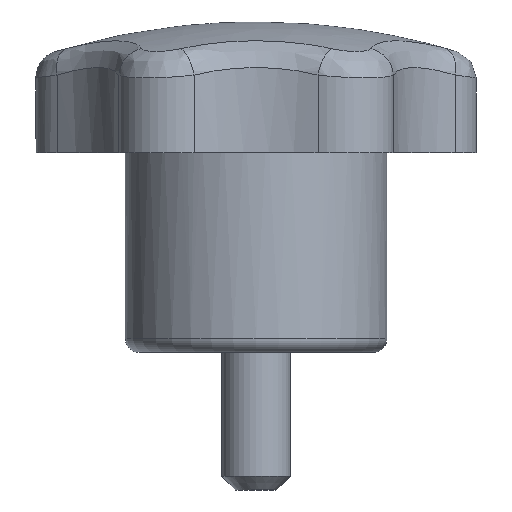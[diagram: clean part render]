
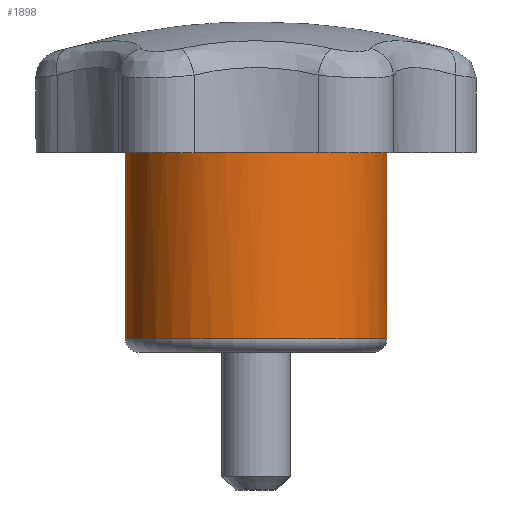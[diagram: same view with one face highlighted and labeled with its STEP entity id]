
A CAD part, front view. The second image highlights one B-rep face of the part: STEP entity #1898.
In plain terms, the highlighted cylindrical face has radius 9.5 mm (diameter 19 mm), a full revolution.
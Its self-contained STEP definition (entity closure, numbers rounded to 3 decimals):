
#42=CARTESIAN_POINT('',(-9.5,0.,1.));
#43=VERTEX_POINT('',#42);
#53=CARTESIAN_POINT('',(0.,0.,1.));
#54=DIRECTION('',(-1.,0.,0.));
#55=DIRECTION('',(0.,0.,1.));
#56=AXIS2_PLACEMENT_3D('',#53,#55,#54);
#57=CIRCLE('',#56,9.5);
#58=EDGE_CURVE('',#43,#43,#57,.T.);
#1670=CARTESIAN_POINT('',(0.,0.,17.5));
#1671=DIRECTION('',(-1.,0.,0.));
#1672=DIRECTION('',(0.,0.,-1.));
#1673=AXIS2_PLACEMENT_3D('',#1670,#1672,#1671);
#1674=CYLINDRICAL_SURFACE('',#1673,9.5);
#1675=ORIENTED_EDGE('',*,*,#58,.T.);
#1676=CARTESIAN_POINT('',(-9.5,0.,16.5));
#1677=VERTEX_POINT('',#1676);
#1678=CARTESIAN_POINT('',(-9.5,0.,1.));
#1679=DIRECTION('',(0.,0.,1.));
#1680=VECTOR('',#1679,15.5);
#1681=LINE('',#1678,#1680);
#1682=EDGE_CURVE('',#43,#1677,#1681,.T.);
#1683=ORIENTED_EDGE('E55',*,*,#1682,.T.);
#1684=CARTESIAN_POINT('',(-9.457,0.9,16.5));
#1685=VERTEX_POINT('',#1684);
#1686=CARTESIAN_POINT('',(0.,0.,16.5));
#1687=DIRECTION('',(-0.996,0.095,0.));
#1688=DIRECTION('',(0.,0.,1.));
#1689=AXIS2_PLACEMENT_3D('',#1686,#1688,#1687);
#1690=CIRCLE('',#1689,9.5);
#1691=EDGE_CURVE('',#1685,#1677,#1690,.T.);
#1692=ORIENTED_EDGE('E233',*,*,#1691,.F.);
#1693=CARTESIAN_POINT('',(-9.457,0.9,17.5));
#1694=VERTEX_POINT('',#1693);
#1695=CARTESIAN_POINT('',(-9.457,0.9,17.5));
#1696=DIRECTION('',(0.,0.,-1.));
#1697=VECTOR('',#1696,1.);
#1698=LINE('',#1695,#1697);
#1699=EDGE_CURVE('',#1694,#1685,#1698,.T.);
#1700=ORIENTED_EDGE('E234',*,*,#1699,.F.);
#1701=CARTESIAN_POINT('',(-5.508,7.74,17.5));
#1702=VERTEX_POINT('',#1701);
#1703=CARTESIAN_POINT('',(0.,0.,17.5));
#1704=DIRECTION('',(-0.58,0.815,0.));
#1705=DIRECTION('',(0.,0.,1.));
#1706=AXIS2_PLACEMENT_3D('',#1703,#1705,#1704);
#1707=CIRCLE('',#1706,9.5);
#1708=EDGE_CURVE('',#1702,#1694,#1707,.T.);
#1709=ORIENTED_EDGE('E132',*,*,#1708,.F.);
#1710=CARTESIAN_POINT('',(-5.508,7.74,16.5));
#1711=VERTEX_POINT('',#1710);
#1712=CARTESIAN_POINT('',(-5.508,7.74,16.5));
#1713=DIRECTION('',(0.,0.,1.));
#1714=VECTOR('',#1713,1.);
#1715=LINE('',#1712,#1714);
#1716=EDGE_CURVE('',#1711,#1702,#1715,.T.);
#1717=ORIENTED_EDGE('E216',*,*,#1716,.F.);
#1718=CARTESIAN_POINT('',(-3.949,8.64,16.5));
#1719=VERTEX_POINT('',#1718);
#1720=CARTESIAN_POINT('',(0.,0.,16.5));
#1721=DIRECTION('',(-0.416,0.909,0.));
#1722=DIRECTION('',(0.,0.,1.));
#1723=AXIS2_PLACEMENT_3D('',#1720,#1722,#1721);
#1724=CIRCLE('',#1723,9.5);
#1725=EDGE_CURVE('',#1719,#1711,#1724,.T.);
#1726=ORIENTED_EDGE('E215',*,*,#1725,.F.);
#1727=CARTESIAN_POINT('',(-3.949,8.64,17.5));
#1728=VERTEX_POINT('',#1727);
#1729=CARTESIAN_POINT('',(-3.949,8.64,17.5));
#1730=DIRECTION('',(0.,0.,-1.));
#1731=VECTOR('',#1730,1.);
#1732=LINE('',#1729,#1731);
#1733=EDGE_CURVE('',#1728,#1719,#1732,.T.);
#1734=ORIENTED_EDGE('E214',*,*,#1733,.F.);
#1735=CARTESIAN_POINT('',(3.949,8.64,17.5));
#1736=VERTEX_POINT('',#1735);
#1737=CARTESIAN_POINT('',(0.,0.,17.5));
#1738=DIRECTION('',(0.416,0.909,0.));
#1739=DIRECTION('',(0.,0.,1.));
#1740=AXIS2_PLACEMENT_3D('',#1737,#1739,#1738);
#1741=CIRCLE('',#1740,9.5);
#1742=EDGE_CURVE('',#1736,#1728,#1741,.T.);
#1743=ORIENTED_EDGE('E166',*,*,#1742,.F.);
#1744=CARTESIAN_POINT('',(3.949,8.64,16.5));
#1745=VERTEX_POINT('',#1744);
#1746=CARTESIAN_POINT('',(3.949,8.64,16.5));
#1747=DIRECTION('',(0.,0.,1.));
#1748=VECTOR('',#1747,1.);
#1749=LINE('',#1746,#1748);
#1750=EDGE_CURVE('',#1745,#1736,#1749,.T.);
#1751=ORIENTED_EDGE('E186',*,*,#1750,.F.);
#1752=CARTESIAN_POINT('',(5.508,7.74,16.5));
#1753=VERTEX_POINT('',#1752);
#1754=CARTESIAN_POINT('',(0.,0.,16.5));
#1755=DIRECTION('',(0.58,0.815,0.));
#1756=DIRECTION('',(0.,0.,1.));
#1757=AXIS2_PLACEMENT_3D('',#1754,#1756,#1755);
#1758=CIRCLE('',#1757,9.5);
#1759=EDGE_CURVE('',#1753,#1745,#1758,.T.);
#1760=ORIENTED_EDGE('E180',*,*,#1759,.F.);
#1761=CARTESIAN_POINT('',(5.508,7.74,17.5));
#1762=VERTEX_POINT('',#1761);
#1763=CARTESIAN_POINT('',(5.508,7.74,17.5));
#1764=DIRECTION('',(0.,0.,-1.));
#1765=VECTOR('',#1764,1.);
#1766=LINE('',#1763,#1765);
#1767=EDGE_CURVE('',#1762,#1753,#1766,.T.);
#1768=ORIENTED_EDGE('E181',*,*,#1767,.F.);
#1769=CARTESIAN_POINT('',(9.457,0.9,17.5));
#1770=VERTEX_POINT('',#1769);
#1771=CARTESIAN_POINT('',(0.,0.,17.5));
#1772=DIRECTION('',(0.996,0.095,0.));
#1773=DIRECTION('',(0.,0.,1.));
#1774=AXIS2_PLACEMENT_3D('',#1771,#1773,#1772);
#1775=CIRCLE('',#1774,9.5);
#1776=EDGE_CURVE('',#1770,#1762,#1775,.T.);
#1777=ORIENTED_EDGE('E169',*,*,#1776,.F.);
#1778=CARTESIAN_POINT('',(9.457,0.9,16.5));
#1779=VERTEX_POINT('',#1778);
#1780=CARTESIAN_POINT('',(9.457,0.9,16.5));
#1781=DIRECTION('',(0.,0.,1.));
#1782=VECTOR('',#1781,1.);
#1783=LINE('',#1780,#1782);
#1784=EDGE_CURVE('',#1779,#1770,#1783,.T.);
#1785=ORIENTED_EDGE('E224',*,*,#1784,.F.);
#1786=CARTESIAN_POINT('',(9.457,-0.9,16.5));
#1787=VERTEX_POINT('',#1786);
#1788=CARTESIAN_POINT('',(0.,0.,16.5));
#1789=DIRECTION('',(0.996,-0.095,0.));
#1790=DIRECTION('',(0.,0.,1.));
#1791=AXIS2_PLACEMENT_3D('',#1788,#1790,#1789);
#1792=CIRCLE('',#1791,9.5);
#1793=EDGE_CURVE('',#1787,#1779,#1792,.T.);
#1794=ORIENTED_EDGE('E220',*,*,#1793,.F.);
#1795=CARTESIAN_POINT('',(9.457,-0.9,17.5));
#1796=VERTEX_POINT('',#1795);
#1797=CARTESIAN_POINT('',(9.457,-0.9,17.5));
#1798=DIRECTION('',(0.,0.,-1.));
#1799=VECTOR('',#1798,1.);
#1800=LINE('',#1797,#1799);
#1801=EDGE_CURVE('',#1796,#1787,#1800,.T.);
#1802=ORIENTED_EDGE('E223',*,*,#1801,.F.);
#1803=CARTESIAN_POINT('',(5.508,-7.74,17.5));
#1804=VERTEX_POINT('',#1803);
#1805=CARTESIAN_POINT('',(0.,0.,17.5));
#1806=DIRECTION('',(0.58,-0.815,0.));
#1807=DIRECTION('',(0.,-0.,1.));
#1808=AXIS2_PLACEMENT_3D('',#1805,#1807,#1806);
#1809=CIRCLE('',#1808,9.5);
#1810=EDGE_CURVE('',#1804,#1796,#1809,.T.);
#1811=ORIENTED_EDGE('E167',*,*,#1810,.F.);
#1812=CARTESIAN_POINT('',(5.508,-7.74,16.5));
#1813=VERTEX_POINT('',#1812);
#1814=CARTESIAN_POINT('',(5.508,-7.74,16.5));
#1815=DIRECTION('',(0.,0.,1.));
#1816=VECTOR('',#1815,1.);
#1817=LINE('',#1814,#1816);
#1818=EDGE_CURVE('',#1813,#1804,#1817,.T.);
#1819=ORIENTED_EDGE('E192',*,*,#1818,.F.);
#1820=CARTESIAN_POINT('',(3.949,-8.64,16.5));
#1821=VERTEX_POINT('',#1820);
#1822=CARTESIAN_POINT('',(0.,0.,16.5));
#1823=DIRECTION('',(0.416,-0.909,0.));
#1824=DIRECTION('',(0.,0.,1.));
#1825=AXIS2_PLACEMENT_3D('',#1822,#1824,#1823);
#1826=CIRCLE('',#1825,9.5);
#1827=EDGE_CURVE('',#1821,#1813,#1826,.T.);
#1828=ORIENTED_EDGE('E196',*,*,#1827,.F.);
#1829=CARTESIAN_POINT('',(3.949,-8.64,17.5));
#1830=VERTEX_POINT('',#1829);
#1831=CARTESIAN_POINT('',(3.949,-8.64,17.5));
#1832=DIRECTION('',(0.,0.,-1.));
#1833=VECTOR('',#1832,1.);
#1834=LINE('',#1831,#1833);
#1835=EDGE_CURVE('',#1830,#1821,#1834,.T.);
#1836=ORIENTED_EDGE('E195',*,*,#1835,.F.);
#1837=CARTESIAN_POINT('',(-3.949,-8.64,17.5));
#1838=VERTEX_POINT('',#1837);
#1839=CARTESIAN_POINT('',(0.,0.,17.5));
#1840=DIRECTION('',(-0.416,-0.909,0.));
#1841=DIRECTION('',(-0.,0.,1.));
#1842=AXIS2_PLACEMENT_3D('',#1839,#1841,#1840);
#1843=CIRCLE('',#1842,9.5);
#1844=EDGE_CURVE('',#1838,#1830,#1843,.T.);
#1845=ORIENTED_EDGE('E168',*,*,#1844,.F.);
#1846=CARTESIAN_POINT('',(-3.949,-8.64,16.5));
#1847=VERTEX_POINT('',#1846);
#1848=CARTESIAN_POINT('',(-3.949,-8.64,16.5));
#1849=DIRECTION('',(0.,0.,1.));
#1850=VECTOR('',#1849,1.);
#1851=LINE('',#1848,#1850);
#1852=EDGE_CURVE('',#1847,#1838,#1851,.T.);
#1853=ORIENTED_EDGE('E200',*,*,#1852,.F.);
#1854=CARTESIAN_POINT('',(-5.508,-7.74,16.5));
#1855=VERTEX_POINT('',#1854);
#1856=CARTESIAN_POINT('',(0.,0.,16.5));
#1857=DIRECTION('',(-0.58,-0.815,0.));
#1858=DIRECTION('',(0.,0.,1.));
#1859=AXIS2_PLACEMENT_3D('',#1856,#1858,#1857);
#1860=CIRCLE('',#1859,9.5);
#1861=EDGE_CURVE('',#1855,#1847,#1860,.T.);
#1862=ORIENTED_EDGE('E203',*,*,#1861,.F.);
#1863=CARTESIAN_POINT('',(-5.508,-7.74,17.5));
#1864=VERTEX_POINT('',#1863);
#1865=CARTESIAN_POINT('',(-5.508,-7.74,17.5));
#1866=DIRECTION('',(0.,0.,-1.));
#1867=VECTOR('',#1866,1.);
#1868=LINE('',#1865,#1867);
#1869=EDGE_CURVE('',#1864,#1855,#1868,.T.);
#1870=ORIENTED_EDGE('E206',*,*,#1869,.F.);
#1871=CARTESIAN_POINT('',(-9.457,-0.9,17.5));
#1872=VERTEX_POINT('',#1871);
#1873=CARTESIAN_POINT('',(0.,0.,17.5));
#1874=DIRECTION('',(-0.996,-0.095,0.));
#1875=DIRECTION('',(-0.,0.,1.));
#1876=AXIS2_PLACEMENT_3D('',#1873,#1875,#1874);
#1877=CIRCLE('',#1876,9.5);
#1878=EDGE_CURVE('',#1872,#1864,#1877,.T.);
#1879=ORIENTED_EDGE('E170',*,*,#1878,.F.);
#1880=CARTESIAN_POINT('',(-9.457,-0.9,16.5));
#1881=VERTEX_POINT('',#1880);
#1882=CARTESIAN_POINT('',(-9.457,-0.9,16.5));
#1883=DIRECTION('',(0.,0.,1.));
#1884=VECTOR('',#1883,1.);
#1885=LINE('',#1882,#1884);
#1886=EDGE_CURVE('',#1881,#1872,#1885,.T.);
#1887=ORIENTED_EDGE('E231',*,*,#1886,.F.);
#1888=CARTESIAN_POINT('',(0.,0.,16.5));
#1889=DIRECTION('',(-1.,0.,0.));
#1890=DIRECTION('',(0.,0.,1.));
#1891=AXIS2_PLACEMENT_3D('',#1888,#1890,#1889);
#1892=CIRCLE('',#1891,9.5);
#1893=EDGE_CURVE('',#1677,#1881,#1892,.T.);
#1894=ORIENTED_EDGE('E232',*,*,#1893,.F.);
#1895=ORIENTED_EDGE('E232',*,*,#1682,.F.);
#1896=EDGE_LOOP('',(#1675,#1683,#1692,#1700,#1709,#1717,#1726,#1734,#1743,#1751,#1760,#1768,#1777,#1785,#1794,#1802,#1811,#1819,#1828,#1836,#1845,#1853,#1862,#1870,#1879,#1887,#1894,#1895));
#1897=FACE_OUTER_BOUND('',#1896,.T.);
#1898=ADVANCED_FACE('F50',(#1897),#1674,.T.);
